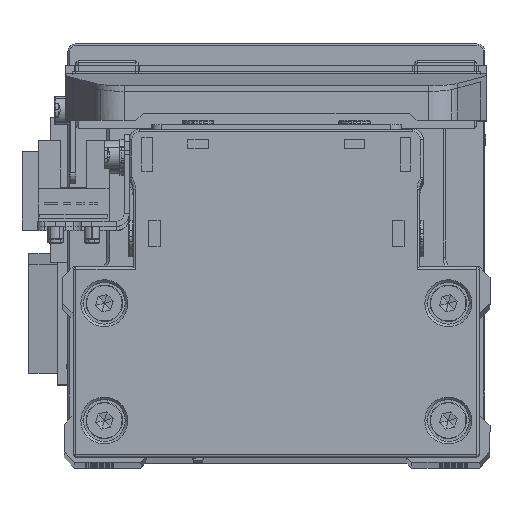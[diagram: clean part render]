
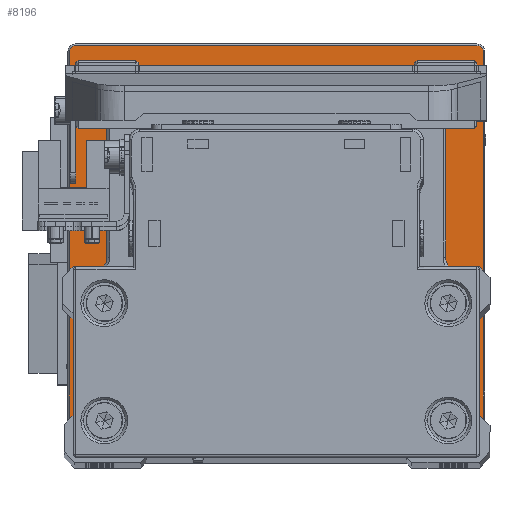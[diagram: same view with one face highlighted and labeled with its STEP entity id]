
A CAD part, top view. The second image highlights one B-rep face of the part: STEP entity #8196.
In plain terms, the highlighted planar face has unit normal (0, 0, 1) as drawn and (0, 1, 0) by its records, which use the part's own axes.
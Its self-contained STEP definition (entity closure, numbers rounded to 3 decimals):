
#219 = LINE ( 'NONE', #12436, #34214 ) ;
#745 = CARTESIAN_POINT ( 'NONE',  ( 39.7, 12., -38.5 ) ) ;
#1328 = CARTESIAN_POINT ( 'NONE',  ( -38.5, 12., 38.5 ) ) ;
#1331 = DIRECTION ( 'NONE',  ( 0., 0., -1. ) ) ;
#1958 = VECTOR ( 'NONE', #20173, 1000. ) ;
#1973 = VERTEX_POINT ( 'NONE', #3796 ) ;
#2381 = PLANE ( 'NONE',  #23254 ) ;
#2397 = EDGE_CURVE ( 'NONE', #29149, #8804, #33777, .T. ) ;
#3334 = ORIENTED_EDGE ( 'NONE', *, *, #2397, .T. ) ;
#3481 = CARTESIAN_POINT ( 'NONE',  ( -39.7, 12., -38.5 ) ) ;
#3796 = CARTESIAN_POINT ( 'NONE',  ( 39.7, 12., 38.5 ) ) ;
#4088 = EDGE_CURVE ( 'NONE', #19465, #1973, #10739, .T. ) ;
#5018 = CARTESIAN_POINT ( 'NONE',  ( 38.5, 12., -39.7 ) ) ;
#5300 = DIRECTION ( 'NONE',  ( 0., 0., -1. ) ) ;
#5930 = DIRECTION ( 'NONE',  ( 0., 0., 1. ) ) ;
#6078 = AXIS2_PLACEMENT_3D ( 'NONE', #16553, #28759, #1331 ) ;
#6111 = ORIENTED_EDGE ( 'NONE', *, *, #18377, .T. ) ;
#6181 = DIRECTION ( 'NONE',  ( 0., 1., 0. ) ) ;
#6350 = CARTESIAN_POINT ( 'NONE',  ( -39.7, 12., 0. ) ) ;
#7602 = ORIENTED_EDGE ( 'NONE', *, *, #17761, .T. ) ;
#7969 = CARTESIAN_POINT ( 'NONE',  ( 0., 12., 39.7 ) ) ;
#8196 = ADVANCED_FACE ( 'NONE', ( #17581, #29802 ), #2381, .F. ) ;
#8804 = VERTEX_POINT ( 'NONE', #20188 ) ;
#10739 = CIRCLE ( 'NONE', #33114, 1.2 ) ;
#10843 = LINE ( 'NONE', #23039, #11761 ) ;
#11383 = CARTESIAN_POINT ( 'NONE',  ( 0., 12., 20.5 ) ) ;
#11712 = DIRECTION ( 'NONE',  ( 0., 1., 0. ) ) ;
#11761 = VECTOR ( 'NONE', #35258, 1000. ) ;
#12271 = CIRCLE ( 'NONE', #34642, 20.5 ) ;
#12436 = CARTESIAN_POINT ( 'NONE',  ( 39.7, 12., 0. ) ) ;
#12466 = VERTEX_POINT ( 'NONE', #36723 ) ;
#13537 = DIRECTION ( 'NONE',  ( 0., 1., 0. ) ) ;
#14426 = AXIS2_PLACEMENT_3D ( 'NONE', #1328, #13537, #25744 ) ;
#14557 = ORIENTED_EDGE ( 'NONE', *, *, #26814, .F. ) ;
#14590 = CARTESIAN_POINT ( 'NONE',  ( 0., 12., 0. ) ) ;
#14958 = EDGE_CURVE ( 'NONE', #32487, #30376, #23323, .T. ) ;
#15395 = EDGE_CURVE ( 'NONE', #30376, #12466, #10843, .T. ) ;
#15708 = CIRCLE ( 'NONE', #20808, 1.2 ) ;
#16553 = CARTESIAN_POINT ( 'NONE',  ( 38.5, 12., -38.5 ) ) ;
#16578 = ORIENTED_EDGE ( 'NONE', *, *, #28624, .F. ) ;
#16774 = VERTEX_POINT ( 'NONE', #11383 ) ;
#17581 = FACE_OUTER_BOUND ( 'NONE', #33816, .T. ) ;
#17761 = EDGE_CURVE ( 'NONE', #1973, #32487, #219, .T. ) ;
#18377 = EDGE_CURVE ( 'NONE', #8804, #37323, #31683, .T. ) ;
#18382 = DIRECTION ( 'NONE',  ( 0., 0., 1. ) ) ;
#18546 = DIRECTION ( 'NONE',  ( 0., 0., 1. ) ) ;
#18690 = CARTESIAN_POINT ( 'NONE',  ( -38.5, 12., 39.7 ) ) ;
#18925 = AXIS2_PLACEMENT_3D ( 'NONE', #33606, #6181, #18382 ) ;
#19465 = VERTEX_POINT ( 'NONE', #36409 ) ;
#20173 = DIRECTION ( 'NONE',  ( 1., 0., 0. ) ) ;
#20188 = CARTESIAN_POINT ( 'NONE',  ( -39.7, 12., 38.5 ) ) ;
#20503 = CARTESIAN_POINT ( 'NONE',  ( -38.5, 12., -38.5 ) ) ;
#20808 = AXIS2_PLACEMENT_3D ( 'NONE', #20503, #32715, #5300 ) ;
#21140 = CARTESIAN_POINT ( 'NONE',  ( 0., 12., 0. ) ) ;
#21208 = VECTOR ( 'NONE', #18546, 1000. ) ;
#22186 = CARTESIAN_POINT ( 'NONE',  ( 0., 12., -20.5 ) ) ;
#23039 = CARTESIAN_POINT ( 'NONE',  ( 0., 12., -39.7 ) ) ;
#23254 = AXIS2_PLACEMENT_3D ( 'NONE', #14590, #26789, #39010 ) ;
#23323 = CIRCLE ( 'NONE', #6078, 1.2 ) ;
#23918 = DIRECTION ( 'NONE',  ( 0., 0., -1. ) ) ;
#24429 = EDGE_CURVE ( 'NONE', #37323, #19465, #35391, .T. ) ;
#24638 = DIRECTION ( 'NONE',  ( 0., 0., -1. ) ) ;
#24859 = ORIENTED_EDGE ( 'NONE', *, *, #4088, .T. ) ;
#24907 = EDGE_CURVE ( 'NONE', #12466, #29149, #15708, .T. ) ;
#25744 = DIRECTION ( 'NONE',  ( 0., 0., -1. ) ) ;
#26277 = ORIENTED_EDGE ( 'NONE', *, *, #15395, .T. ) ;
#26789 = DIRECTION ( 'NONE',  ( 0., -1., 0. ) ) ;
#26814 = EDGE_CURVE ( 'NONE', #16774, #33739, #36194, .T. ) ;
#28624 = EDGE_CURVE ( 'NONE', #33739, #16774, #12271, .T. ) ;
#28759 = DIRECTION ( 'NONE',  ( 0., 1., 0. ) ) ;
#28927 = ORIENTED_EDGE ( 'NONE', *, *, #24429, .T. ) ;
#29149 = VERTEX_POINT ( 'NONE', #3481 ) ;
#29802 = FACE_BOUND ( 'NONE', #39518, .T. ) ;
#30376 = VERTEX_POINT ( 'NONE', #5018 ) ;
#31683 = CIRCLE ( 'NONE', #14426, 1.2 ) ;
#32487 = VERTEX_POINT ( 'NONE', #745 ) ;
#32715 = DIRECTION ( 'NONE',  ( 0., 1., 0. ) ) ;
#33114 = AXIS2_PLACEMENT_3D ( 'NONE', #39140, #11712, #23918 ) ;
#33354 = DIRECTION ( 'NONE',  ( 0., 1., 0. ) ) ;
#33606 = CARTESIAN_POINT ( 'NONE',  ( 0., 12., 0. ) ) ;
#33739 = VERTEX_POINT ( 'NONE', #22186 ) ;
#33777 = LINE ( 'NONE', #6350, #21208 ) ;
#33816 = EDGE_LOOP ( 'NONE', ( #35927, #26277, #36819, #3334, #6111, #28927, #24859, #7602 ) ) ;
#34214 = VECTOR ( 'NONE', #24638, 1000. ) ;
#34642 = AXIS2_PLACEMENT_3D ( 'NONE', #21140, #33354, #5930 ) ;
#35258 = DIRECTION ( 'NONE',  ( -1., 0., 0. ) ) ;
#35391 = LINE ( 'NONE', #7969, #1958 ) ;
#35927 = ORIENTED_EDGE ( 'NONE', *, *, #14958, .T. ) ;
#36194 = CIRCLE ( 'NONE', #18925, 20.5 ) ;
#36409 = CARTESIAN_POINT ( 'NONE',  ( 38.5, 12., 39.7 ) ) ;
#36723 = CARTESIAN_POINT ( 'NONE',  ( -38.5, 12., -39.7 ) ) ;
#36819 = ORIENTED_EDGE ( 'NONE', *, *, #24907, .T. ) ;
#37323 = VERTEX_POINT ( 'NONE', #18690 ) ;
#39010 = DIRECTION ( 'NONE',  ( 0., 0., -1. ) ) ;
#39140 = CARTESIAN_POINT ( 'NONE',  ( 38.5, 12., 38.5 ) ) ;
#39518 = EDGE_LOOP ( 'NONE', ( #14557, #16578 ) ) ;
